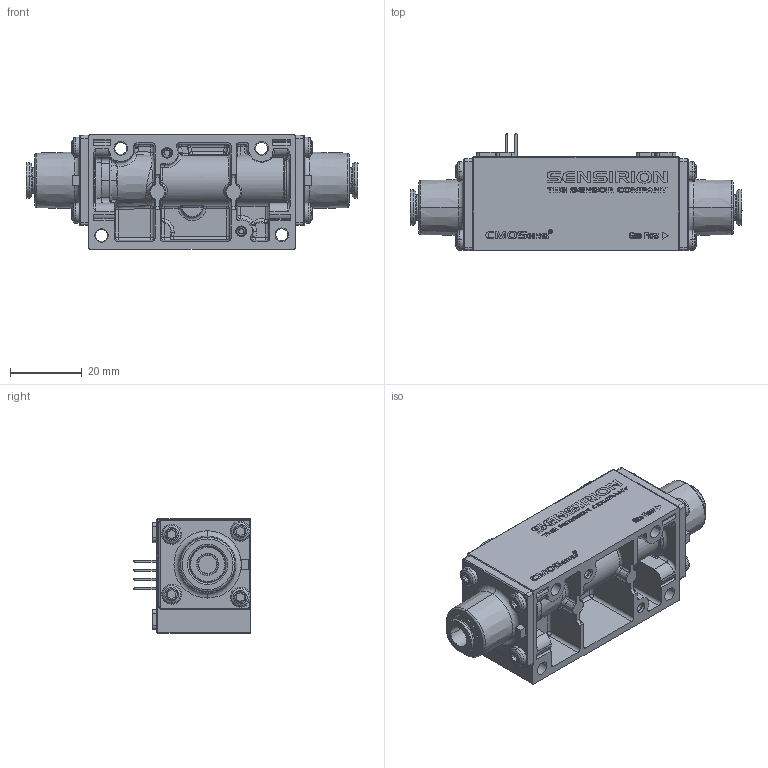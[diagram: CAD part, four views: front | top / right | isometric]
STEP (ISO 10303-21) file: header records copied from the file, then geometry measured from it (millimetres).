
FILE_DESCRIPTION (( 'STEP AP214' ), '1' );
FILE_NAME ('101793.STEP', '2015-05-27T12:34:29', ( '' ), ( '' ), 'SwSTEP 2.0', 'SolidWorks 2015', '' );
FILE_SCHEMA (( 'AUTOMOTIVE_DESIGN' ));
Length unit declared in the file: millimetre
Products named in the file (2): 101799_00; 101793
Assembly tree (1 placements, depth 2):
  101793
    101799_00
Bounding box: 92.47 x 32.68 x 31.83 mm (x, y, z)
Volume: 36307.1 mm3; surface area: 28576.1 mm2
Topology: 13 solids, 20 shells, 4483 faces, 11872 edges, 7589 vertices
Faces by surface type: plane 2988, cylinder 614, torus 326, cone 287, bspline 189, sphere 79
Entity records: 192726 total; most frequent: CARTESIAN_POINT 32734, ORIENTED_EDGE 23708, DIRECTION 22117, EDGE_CURVE 11854, VECTOR 8887, LINE 8887, VERTEX_POINT 7589, AXIS2_PLACEMENT_3D 6615
